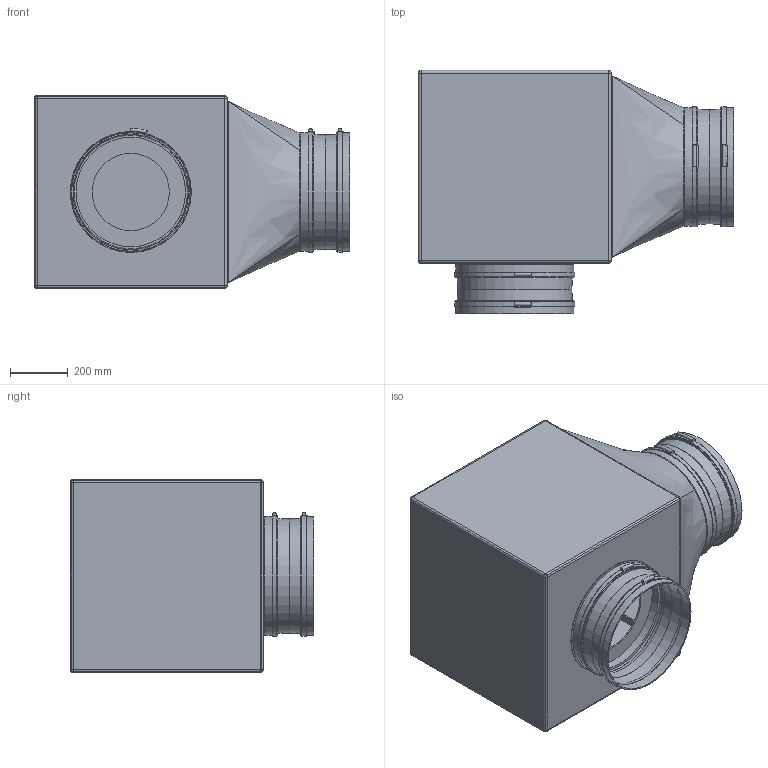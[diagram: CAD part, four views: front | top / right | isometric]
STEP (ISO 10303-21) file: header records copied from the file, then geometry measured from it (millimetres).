
FILE_DESCRIPTION(/* description */ (''),/* implementation_level */ '2;1');
FILE_NAME(/* name */ 'Z:\Output\GBW 400_4_Radial-05513-006.stp',/* time_stamp */ '2017-05-09T00:01:47+02:00',/* author */ ('jayeshpanchal'),/* organization */ (''),/* preprocessor_version */ 'ST-DEVELOPER v16.5',/* originating_system */ 'Autodesk Inventor 2017',/* authorisation */ '');
FILE_SCHEMA (('CONFIG_CONTROL_DESIGN','AUTOMOTIVE_DESIGN { 1 0 10303 214 3 1 1 }'));
Length unit declared in the file: millimetre
Products named in the file (1): GB-2
Bounding box: 1095 x 845 x 670 mm (x, y, z)
Volume: 15699684.1 mm3; surface area: 7186855.3 mm2
Topology: 9 solids, 10 shells, 139 faces, 266 edges, 160 vertices
Faces by surface type: plane 55, cylinder 48, bspline 16, cone 8, sphere 8, torus 4
Full cylindrical faces by diameter (mm): 268 x1, 380 x1, 390 x1, 400 x2, 401 x8, 410 x2, 411 x8, 417 x4, 420 x1
Entity records: 4023 total; most frequent: CARTESIAN_POINT 1292, DIRECTION 584, ORIENTED_EDGE 466, AXIS2_PLACEMENT_3D 245, EDGE_CURVE 227, EDGE_LOOP 206, VERTEX_POINT 157, FACE_OUTER_BOUND 139
